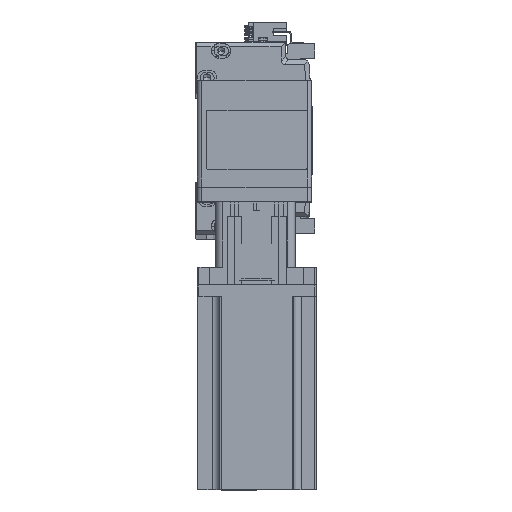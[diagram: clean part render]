
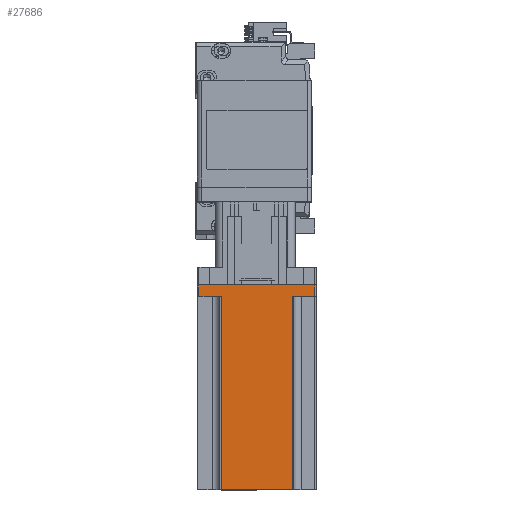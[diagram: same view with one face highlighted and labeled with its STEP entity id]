
A CAD part, top view. The second image highlights one B-rep face of the part: STEP entity #27686.
In plain terms, the highlighted planar face has unit normal (0, 0, 1) as drawn and (0, 1, 0) by its records, which use the part's own axes.
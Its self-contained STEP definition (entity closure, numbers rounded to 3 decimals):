
#763 = CARTESIAN_POINT ( 'NONE',  ( 39., 40., 8. ) ) ;
#891 = VECTOR ( 'NONE', #27057, 1000. ) ;
#1128 = CARTESIAN_POINT ( 'NONE',  ( -24., 40., 8. ) ) ;
#1164 = DIRECTION ( 'NONE',  ( 0., 0., -1. ) ) ;
#1395 = CARTESIAN_POINT ( 'NONE',  ( 24., 40., 8. ) ) ;
#2569 = VERTEX_POINT ( 'NONE', #18401 ) ;
#3686 = CARTESIAN_POINT ( 'NONE',  ( 25., 40., 8. ) ) ;
#3834 = CARTESIAN_POINT ( 'NONE',  ( -25., 40., 8. ) ) ;
#3921 = CARTESIAN_POINT ( 'NONE',  ( -39., 40., 8. ) ) ;
#4650 = LINE ( 'NONE', #38786, #16237 ) ;
#6025 = ORIENTED_EDGE ( 'NONE', *, *, #48151, .T. ) ;
#6865 = ORIENTED_EDGE ( 'NONE', *, *, #8888, .T. ) ;
#7234 = PLANE ( 'NONE',  #31439 ) ;
#7843 = VERTEX_POINT ( 'NONE', #763 ) ;
#8292 = VERTEX_POINT ( 'NONE', #38123 ) ;
#8888 = EDGE_CURVE ( 'NONE', #27789, #28495, #23705, .T. ) ;
#8936 = CARTESIAN_POINT ( 'NONE',  ( -39., 40., 138.3 ) ) ;
#10129 = LINE ( 'NONE', #37345, #17626 ) ;
#11421 = LINE ( 'NONE', #14270, #44996 ) ;
#14143 = CARTESIAN_POINT ( 'NONE',  ( 40., 40., 138.3 ) ) ;
#14270 = CARTESIAN_POINT ( 'NONE',  ( 40., 40., 0. ) ) ;
#15854 = VECTOR ( 'NONE', #1164, 1000. ) ;
#16237 = VECTOR ( 'NONE', #25503, 1000. ) ;
#16773 = LINE ( 'NONE', #3686, #38680 ) ;
#17051 = CARTESIAN_POINT ( 'NONE',  ( -24., 40., 138.3 ) ) ;
#17626 = VECTOR ( 'NONE', #41661, 1000. ) ;
#18401 = CARTESIAN_POINT ( 'NONE',  ( 24., 40., 138.3 ) ) ;
#23705 = LINE ( 'NONE', #3834, #33940 ) ;
#24140 = LINE ( 'NONE', #14143, #891 ) ;
#24706 = CARTESIAN_POINT ( 'NONE',  ( 40., 40., 138.3 ) ) ;
#25444 = ORIENTED_EDGE ( 'NONE', *, *, #36863, .T. ) ;
#25503 = DIRECTION ( 'NONE',  ( 0., 0., 1. ) ) ;
#26373 = VERTEX_POINT ( 'NONE', #1395 ) ;
#26938 = EDGE_LOOP ( 'NONE', ( #6865, #6025, #49884, #31639, #28187, #48356, #47542, #25444 ) ) ;
#27057 = DIRECTION ( 'NONE',  ( -1., 0., 0. ) ) ;
#27366 = DIRECTION ( 'NONE',  ( -1., 0., 0. ) ) ;
#27368 = CARTESIAN_POINT ( 'NONE',  ( 39., 40., 0. ) ) ;
#27686 = ADVANCED_FACE ( 'NONE', ( #38286 ), #7234, .F. ) ;
#27789 = VERTEX_POINT ( 'NONE', #3921 ) ;
#28187 = ORIENTED_EDGE ( 'NONE', *, *, #52100, .F. ) ;
#28495 = VERTEX_POINT ( 'NONE', #1128 ) ;
#29100 = DIRECTION ( 'NONE',  ( 1., 0., 0. ) ) ;
#31439 = AXIS2_PLACEMENT_3D ( 'NONE', #24706, #55514, #29100 ) ;
#31639 = ORIENTED_EDGE ( 'NONE', *, *, #50890, .T. ) ;
#31702 = CARTESIAN_POINT ( 'NONE',  ( 39., 40., 138.3 ) ) ;
#31759 = VERTEX_POINT ( 'NONE', #27368 ) ;
#32025 = VECTOR ( 'NONE', #39551, 1000. ) ;
#33940 = VECTOR ( 'NONE', #38821, 1000. ) ;
#36863 = EDGE_CURVE ( 'NONE', #8292, #27789, #43768, .T. ) ;
#37345 = CARTESIAN_POINT ( 'NONE',  ( 24., 40., 138.3 ) ) ;
#38123 = CARTESIAN_POINT ( 'NONE',  ( -39., 40., 0. ) ) ;
#38286 = FACE_OUTER_BOUND ( 'NONE', #26938, .T. ) ;
#38680 = VECTOR ( 'NONE', #56193, 1000. ) ;
#38786 = CARTESIAN_POINT ( 'NONE',  ( -24., 40., 138.3 ) ) ;
#38821 = DIRECTION ( 'NONE',  ( 1., 0., 0. ) ) ;
#39551 = DIRECTION ( 'NONE',  ( 0., 0., 1. ) ) ;
#41661 = DIRECTION ( 'NONE',  ( 0., 0., -1. ) ) ;
#43768 = LINE ( 'NONE', #8936, #32025 ) ;
#44968 = EDGE_CURVE ( 'NONE', #2569, #45923, #24140, .T. ) ;
#44996 = VECTOR ( 'NONE', #27366, 1000. ) ;
#45923 = VERTEX_POINT ( 'NONE', #17051 ) ;
#46165 = EDGE_CURVE ( 'NONE', #7843, #31759, #49477, .T. ) ;
#47542 = ORIENTED_EDGE ( 'NONE', *, *, #48360, .T. ) ;
#48151 = EDGE_CURVE ( 'NONE', #28495, #45923, #4650, .T. ) ;
#48356 = ORIENTED_EDGE ( 'NONE', *, *, #46165, .T. ) ;
#48360 = EDGE_CURVE ( 'NONE', #31759, #8292, #11421, .T. ) ;
#49477 = LINE ( 'NONE', #31702, #15854 ) ;
#49884 = ORIENTED_EDGE ( 'NONE', *, *, #44968, .F. ) ;
#50890 = EDGE_CURVE ( 'NONE', #2569, #26373, #10129, .T. ) ;
#52100 = EDGE_CURVE ( 'NONE', #7843, #26373, #16773, .T. ) ;
#55514 = DIRECTION ( 'NONE',  ( 0., -1., 0. ) ) ;
#56193 = DIRECTION ( 'NONE',  ( -1., 0., 0. ) ) ;
